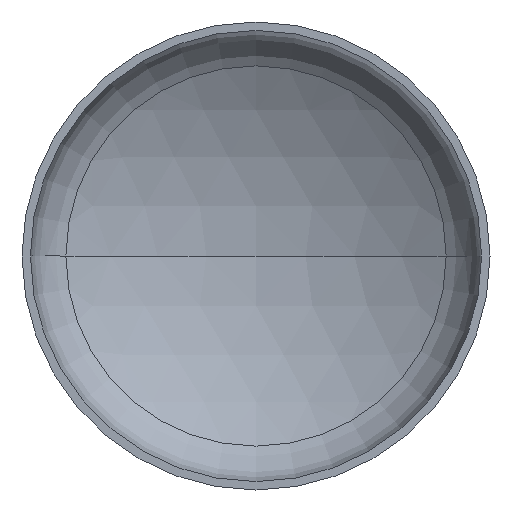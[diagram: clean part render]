
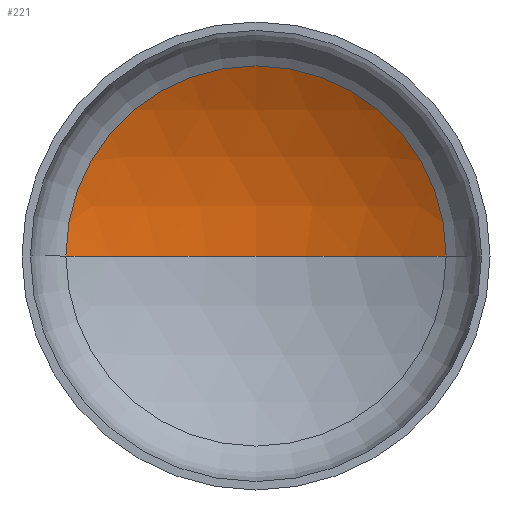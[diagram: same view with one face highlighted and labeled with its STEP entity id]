
A CAD part, front view. The second image highlights one B-rep face of the part: STEP entity #221.
In plain terms, the highlighted spherical face has radius 2080 mm.
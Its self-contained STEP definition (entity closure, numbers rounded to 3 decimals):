
#6 = AXIS2_PLACEMENT_3D ( 'NONE', #258, #40, #281 ) ;
#12 = AXIS2_PLACEMENT_3D ( 'NONE', #325, #179, #351 ) ;
#26 = ORIENTED_EDGE ( 'NONE', *, *, #380, .T. ) ;
#32 = ORIENTED_EDGE ( 'NONE', *, *, #375, .T. ) ;
#40 = DIRECTION ( 'NONE',  ( 0., 0., -1. ) ) ;
#47 = CARTESIAN_POINT ( 'NONE',  ( -1056.095, 494.605, 0. ) ) ;
#51 = AXIS2_PLACEMENT_3D ( 'NONE', #222, #349, #348 ) ;
#54 = EDGE_LOOP ( 'NONE', ( #88, #32, #26 ) ) ;
#88 = ORIENTED_EDGE ( 'NONE', *, *, #353, .F. ) ;
#94 = VERTEX_POINT ( 'NONE', #47 ) ;
#102 = VERTEX_POINT ( 'NONE', #259 ) ;
#124 = VERTEX_POINT ( 'NONE', #212 ) ;
#167 = CIRCLE ( 'NONE', #12, 2080. ) ;
#179 = DIRECTION ( 'NONE',  ( 0., 0., 1. ) ) ;
#203 = CARTESIAN_POINT ( 'NONE',  ( 0., 494.605, 0. ) ) ;
#212 = CARTESIAN_POINT ( 'NONE',  ( 1056.095, 494.605, 0. ) ) ;
#221 = ADVANCED_FACE ( 'NONE', ( #336 ), #279, .F. ) ;
#222 = CARTESIAN_POINT ( 'NONE',  ( 0., -1297.339, 0. ) ) ;
#231 = CIRCLE ( 'NONE', #283, 1056.095 ) ;
#258 = CARTESIAN_POINT ( 'NONE',  ( 0., -1297.339, 0. ) ) ;
#259 = CARTESIAN_POINT ( 'NONE',  ( 0., 782.661, 0. ) ) ;
#279 = SPHERICAL_SURFACE ( 'NONE', #51, 2080. ) ;
#281 = DIRECTION ( 'NONE',  ( -1., 0., 0. ) ) ;
#283 = AXIS2_PLACEMENT_3D ( 'NONE', #203, #379, #302 ) ;
#288 = CIRCLE ( 'NONE', #6, 2080. ) ;
#302 = DIRECTION ( 'NONE',  ( 1., 0., 0. ) ) ;
#325 = CARTESIAN_POINT ( 'NONE',  ( 0., -1297.339, 0. ) ) ;
#336 = FACE_OUTER_BOUND ( 'NONE', #54, .T. ) ;
#348 = DIRECTION ( 'NONE',  ( -1., 0., 0. ) ) ;
#349 = DIRECTION ( 'NONE',  ( 0., 0., -1. ) ) ;
#351 = DIRECTION ( 'NONE',  ( 1., 0., 0. ) ) ;
#353 = EDGE_CURVE ( 'NONE', #102, #94, #167, .T. ) ;
#375 = EDGE_CURVE ( 'NONE', #102, #124, #288, .T. ) ;
#379 = DIRECTION ( 'NONE',  ( 0., -1., 0. ) ) ;
#380 = EDGE_CURVE ( 'NONE', #124, #94, #231, .T. ) ;
